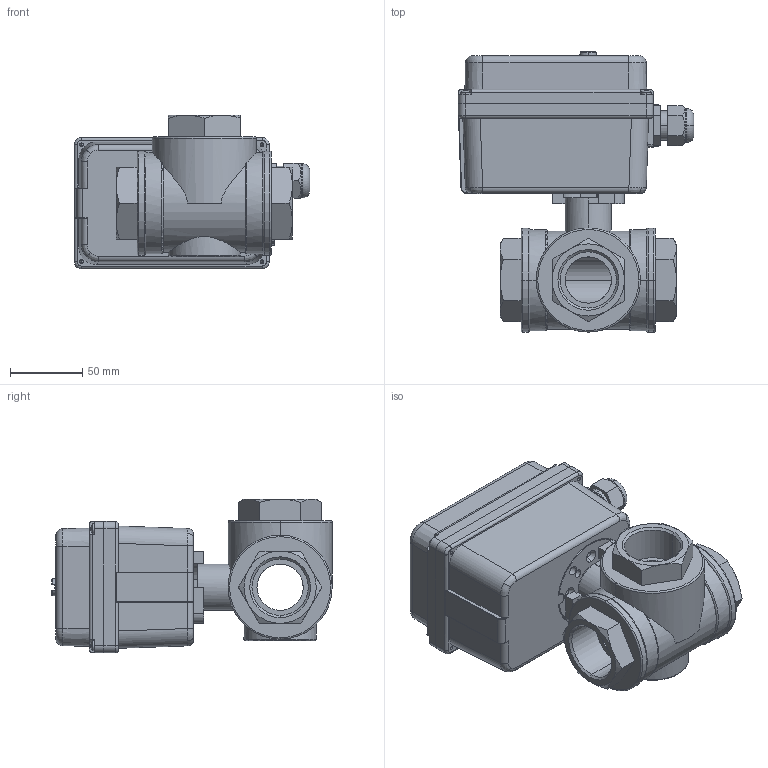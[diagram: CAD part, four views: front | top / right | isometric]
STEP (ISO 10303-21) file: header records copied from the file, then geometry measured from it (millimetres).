
FILE_DESCRIPTION (( 'STEP AP214' ), '1' );
FILE_NAME ('A35 DN32 + EO20.STEP', '2012-04-20T13:47:28', ( '' ), ( '' ), 'SwSTEP 2.0', 'SolidWorks 2011', '' );
FILE_SCHEMA (( 'AUTOMOTIVE_DESIGN' ));
Length unit declared in the file: millimetre
Products named in the file (9): EO10-20-35; Schijf F03 F05; Tapping screw DIN 7049-ST3.5x16-C-H-N_Tapping screw DIN 7049-ST3.5x16-C-H-N; Warteldoorvoer M20; Afdek dop M20; EO10-20-35- Afdekkap; EO10-20-35- Actuator; Ballvalve A35-DN32 G1 1_4; A35 DN32  + EO20
Assembly tree (11 placements, depth 3):
  A35 DN32  + EO20
    Ballvalve A35-DN32 G1 1_4
    EO10-20-35
      EO10-20-35- Afdekkap
      Tapping screw DIN 7049-ST3.5x16-C-H-N_Tapping screw DIN 7049-ST3.5x16-C-H-N  x4
      Warteldoorvoer M20
      EO10-20-35- Actuator
      Schijf F03 F05
      Afdek dop M20
Bounding box: 163 x 194 x 106.5 mm (x, y, z)
Volume: 1407849.8 mm3; surface area: 174873.2 mm2
Topology: 10 solids, 10 shells, 723 faces, 1854 edges, 1194 vertices
Faces by surface type: plane 333, cylinder 206, bspline 83, cone 66, torus 27, sphere 8
Entity records: 25388 total; most frequent: CARTESIAN_POINT 8364, ORIENTED_EDGE 3204, DIRECTION 2976, EDGE_CURVE 1602, AXIS2_PLACEMENT_3D 1063, VERTEX_POINT 1035, VECTOR 850, LINE 850
